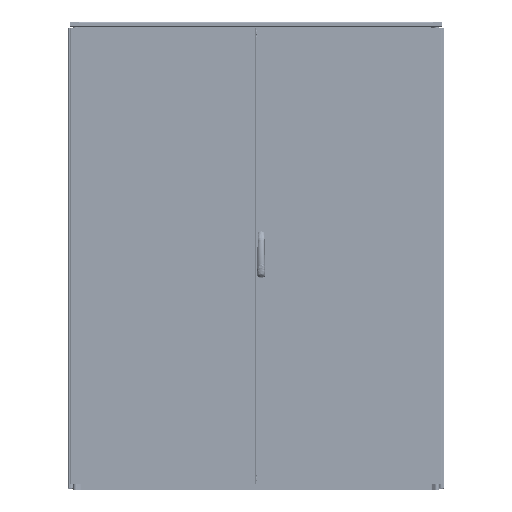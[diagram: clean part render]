
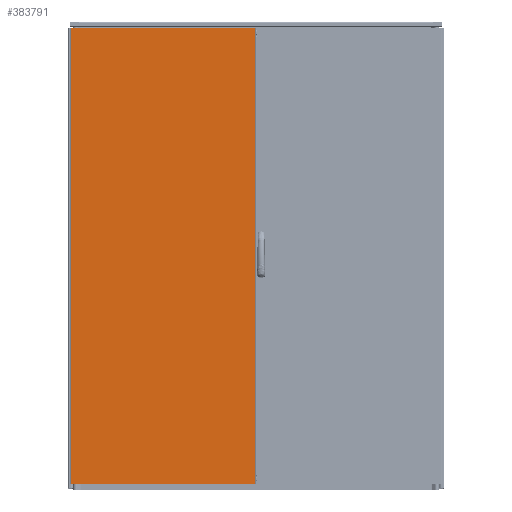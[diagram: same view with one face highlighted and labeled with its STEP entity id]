
A CAD part, top view. The second image highlights one B-rep face of the part: STEP entity #383791.
In plain terms, the highlighted planar face has unit normal (0, 0, 1).
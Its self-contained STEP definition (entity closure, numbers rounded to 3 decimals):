
#14523 = PLANE ( 'NONE',  #152425 ) ;
#32645 = LINE ( 'NONE', #130263, #321435 ) ;
#35373 = ORIENTED_EDGE ( 'NONE', *, *, #93628, .T. ) ;
#50496 = EDGE_CURVE ( 'NONE', #135566, #134601, #224526, .T. ) ;
#81937 = ORIENTED_EDGE ( 'NONE', *, *, #50496, .T. ) ;
#84351 = DIRECTION ( 'NONE',  ( -1., 0., 0. ) ) ;
#93628 = EDGE_CURVE ( 'NONE', #134601, #365395, #240673, .T. ) ;
#100829 = DIRECTION ( 'NONE',  ( 1., 0., 0. ) ) ;
#114260 = DIRECTION ( 'NONE',  ( -1., 0., 0. ) ) ;
#130263 = CARTESIAN_POINT ( 'NONE',  ( 2.001, 3., 19. ) ) ;
#132612 = CARTESIAN_POINT ( 'NONE',  ( 792., 3., 19. ) ) ;
#134601 = VERTEX_POINT ( 'NONE', #132612 ) ;
#135566 = VERTEX_POINT ( 'NONE', #328074 ) ;
#144690 = ORIENTED_EDGE ( 'NONE', *, *, #158668, .T. ) ;
#152425 = AXIS2_PLACEMENT_3D ( 'NONE', #175043, #404841, #114260 ) ;
#158668 = EDGE_CURVE ( 'NONE', #365395, #182636, #249137, .T. ) ;
#175043 = CARTESIAN_POINT ( 'NONE',  ( 0., 1960., 19. ) ) ;
#182636 = VERTEX_POINT ( 'NONE', #220079 ) ;
#192032 = CARTESIAN_POINT ( 'NONE',  ( 0., 3., 19. ) ) ;
#203891 = DIRECTION ( 'NONE',  ( 0., 1., 0. ) ) ;
#211839 = FACE_OUTER_BOUND ( 'NONE', #363626, .T. ) ;
#219046 = VECTOR ( 'NONE', #100829, 1000. ) ;
#220079 = CARTESIAN_POINT ( 'NONE',  ( 2.001, 1957., 19. ) ) ;
#224526 = LINE ( 'NONE', #192032, #219046 ) ;
#227125 = EDGE_CURVE ( 'NONE', #182636, #135566, #32645, .T. ) ;
#229952 = DIRECTION ( 'NONE',  ( 0., -1., 0. ) ) ;
#231793 = VECTOR ( 'NONE', #84351, 1000. ) ;
#239125 = VECTOR ( 'NONE', #203891, 1000. ) ;
#240673 = LINE ( 'NONE', #370758, #239125 ) ;
#249137 = LINE ( 'NONE', #381355, #231793 ) ;
#290047 = ORIENTED_EDGE ( 'NONE', *, *, #227125, .T. ) ;
#321435 = VECTOR ( 'NONE', #229952, 1000. ) ;
#328074 = CARTESIAN_POINT ( 'NONE',  ( 2.001, 3., 19. ) ) ;
#349365 = CARTESIAN_POINT ( 'NONE',  ( 792., 1957., 19. ) ) ;
#363626 = EDGE_LOOP ( 'NONE', ( #144690, #290047, #81937, #35373 ) ) ;
#365395 = VERTEX_POINT ( 'NONE', #349365 ) ;
#370758 = CARTESIAN_POINT ( 'NONE',  ( 792., 1960., 19. ) ) ;
#381355 = CARTESIAN_POINT ( 'NONE',  ( 0., 1957., 19. ) ) ;
#383791 = ADVANCED_FACE ( 'NONE', ( #211839 ), #14523, .F. ) ;
#404841 = DIRECTION ( 'NONE',  ( 0., 0., -1. ) ) ;
